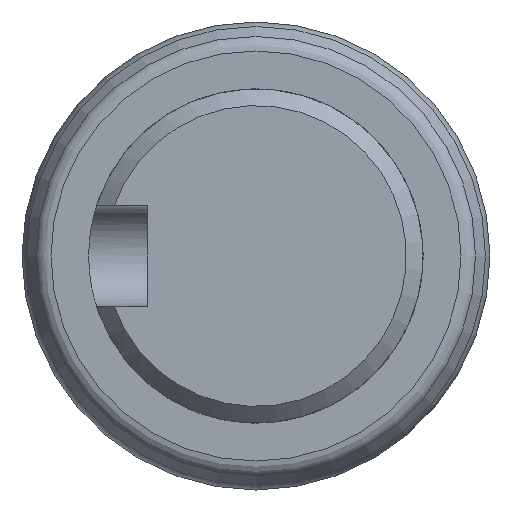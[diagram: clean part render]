
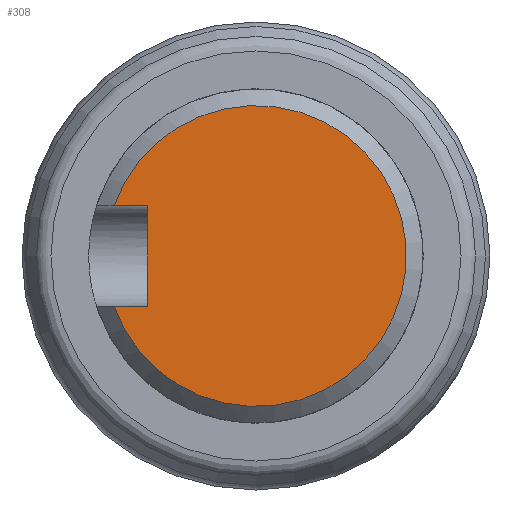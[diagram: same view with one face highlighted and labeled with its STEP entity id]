
A CAD part, left-side view. The second image highlights one B-rep face of the part: STEP entity #308.
In plain terms, the highlighted planar face has unit normal (-1, 0, 0).
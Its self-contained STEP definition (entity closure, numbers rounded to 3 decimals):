
#23=LINE('',#529,#32);
#26=LINE('',#537,#35);
#29=LINE('',#542,#38);
#32=VECTOR('',#401,1.985);
#35=VECTOR('',#408,6.);
#38=VECTOR('',#415,1.985);
#45=PLANE('',#343);
#85=FACE_OUTER_BOUND('',#112,.T.);
#112=EDGE_LOOP('',(#261,#262,#263,#264));
#147=CIRCLE('',#335,9.);
#167=VERTEX_POINT('',#487);
#170=VERTEX_POINT('',#494);
#175=VERTEX_POINT('',#528);
#178=VERTEX_POINT('',#536);
#199=EDGE_CURVE('',#170,#167,#147,.T.);
#205=EDGE_CURVE('',#175,#167,#23,.T.);
#209=EDGE_CURVE('',#178,#175,#26,.T.);
#212=EDGE_CURVE('',#170,#178,#29,.T.);
#261=ORIENTED_EDGE('',*,*,#199,.F.);
#262=ORIENTED_EDGE('',*,*,#212,.T.);
#263=ORIENTED_EDGE('',*,*,#209,.T.);
#264=ORIENTED_EDGE('',*,*,#205,.T.);
#308=ADVANCED_FACE('',(#85),#45,.T.);
#335=AXIS2_PLACEMENT_3D('',#498,#391,#392);
#343=AXIS2_PLACEMENT_3D('',#543,#416,#417);
#391=DIRECTION('center_axis',(1.,0.,0.));
#392=DIRECTION('ref_axis',(0.,-1.,0.));
#401=DIRECTION('',(0.,1.,0.));
#408=DIRECTION('',(0.,0.,-1.));
#415=DIRECTION('',(0.,-1.,0.));
#416=DIRECTION('center_axis',(-1.,0.,0.));
#417=DIRECTION('ref_axis',(0.,0.,1.));
#487=CARTESIAN_POINT('',(-51.,8.485,-3.));
#494=CARTESIAN_POINT('',(-51.,8.485,3.));
#498=CARTESIAN_POINT('Origin',(-51.,0.,0.));
#528=CARTESIAN_POINT('',(-51.,6.5,-3.));
#529=CARTESIAN_POINT('',(-51.,8.25,-3.));
#536=CARTESIAN_POINT('',(-51.,6.5,3.));
#537=CARTESIAN_POINT('',(-51.,6.5,1.5));
#542=CARTESIAN_POINT('',(-51.,9.77,3.));
#543=CARTESIAN_POINT('Origin',(-51.,10.,0.));
